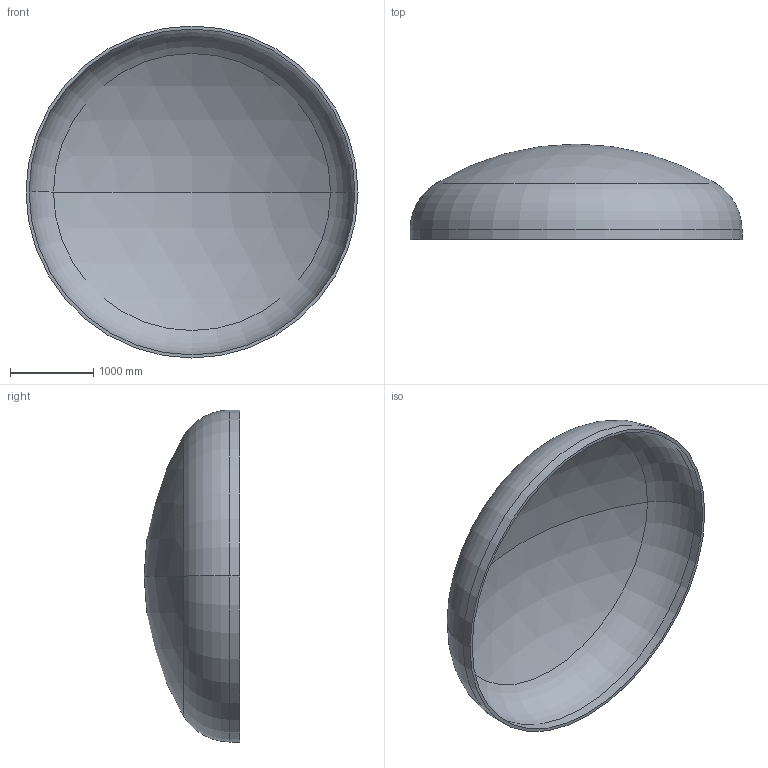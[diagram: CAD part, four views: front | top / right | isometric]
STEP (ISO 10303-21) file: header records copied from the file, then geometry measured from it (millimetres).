
FILE_DESCRIPTION (( 'STEP AP203' ), '1' );
FILE_NAME ('DIN 28013 Korbbogenform_-_Boden DIN 28013 - 4000 x 120 - I - s=37.step', '2016-07-01T22:20:17', ( '' ), ( '' ), 'SwSTEP 2.0', 'SolidWorks 2013', '' );
FILE_SCHEMA (( 'CONFIG_CONTROL_DESIGN' ));
Length unit declared in the file: millimetre
Products named in the file (1): DIN 28013 Korbbogenform_-_Boden DIN 28013 - 4000 x 120 - I - s=37
Bounding box: 4000 x 1151.3 x 4000 mm (x, y, z)
Volume: 691204782.6 mm3; surface area: 37825928.9 mm2
Topology: 1 solids, 1 shells, 13 faces, 24 edges, 14 vertices
Faces by surface type: torus 4, cylinder 4, sphere 4, plane 1
Entity records: 407 total; most frequent: DIRECTION 72, CARTESIAN_POINT 52, ORIENTED_EDGE 48, AXIS2_PLACEMENT_3D 34, EDGE_CURVE 24, CIRCLE 20, EDGE_LOOP 14, VERTEX_POINT 14
